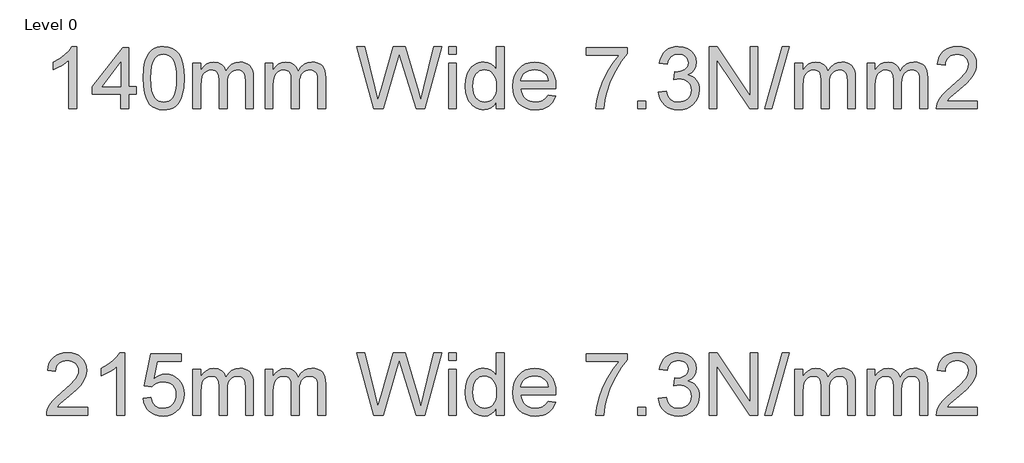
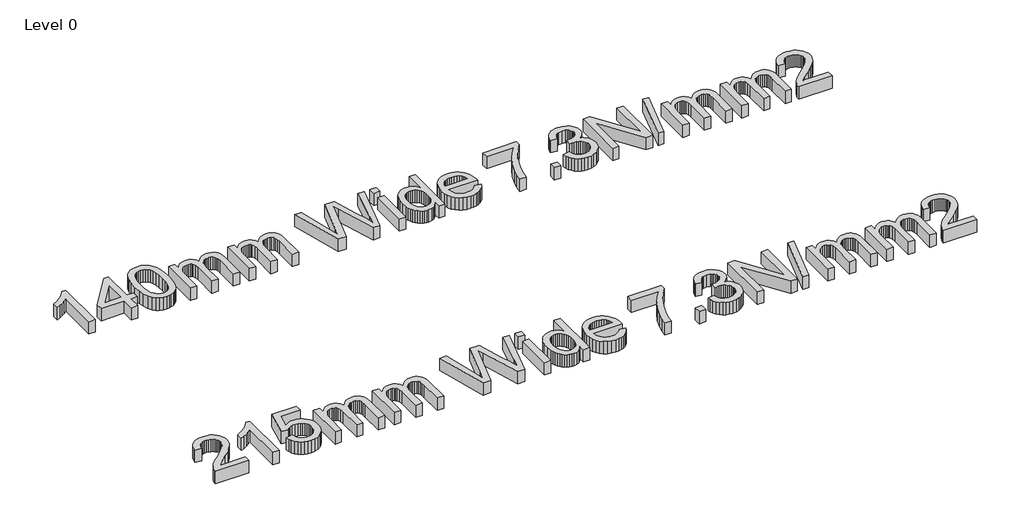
# One storey, part 13 of 14: 2 proxies.
"""IFC4 building model written with IfcOpenShell, lengths in millimetres."""

from ifc_helpers import new_model, si_unit, origin, origin_with_axes, place, context, project, spatial, polyline, outline, extrude, element, save

model = new_model("IFC4")

# Units and contexts
model_context = context("Model", 3, world=origin())
ifc_project = project(units=[si_unit("LENGTHUNIT", "METRE", prefix="MILLI")], contexts=[model_context])

# Site, building, storey
site = spatial("IfcSite", under=ifc_project)
building = spatial("IfcBuilding", under=site)
storey = spatial("IfcBuildingStorey", under=building, Name="Level 0", Elevation=0.0)

# Proxies
placement = place(None, origin())
element("IfcBuildingElementProxy", 1, Name="600mm Arial", ObjectType="600mm Arial", at=placement, inside=storey, context=model_context, shape_type="SweptSolid", body=[
    extrude(outline(polyline([(12948.7162837, 8059.7514844), (12874.8701298, 8059.7514844), (12874.8701298, 8520.1360998), (12844.0408029, 8495.2022056), (12804.9182067, 8470.304369), (12763.8484952, 8448.5435517), (12727.1778221, 8433.0207152), (12727.1778221, 8502.8284075), (12785.1766202, 8534.3788883), (12835.4230144, 8571.914946), (12875.0323894, 8611.8308113), (12901.1201298, 8650.5207152), (12948.7162837, 8650.5207152), (12948.7162837, 8059.7514844)])), origin_with_axes(), (0.0, 0.0, 1.0), 150.0),
    extrude(outline(polyline([(13364.1008991, 8059.7514844), (13364.1008991, 8198.2130229), (13096.4085914, 8198.2130229), (13096.4085914, 8272.0591767), (13382.5624375, 8641.289946), (13437.9470529, 8641.289946), (13437.9470529, 8272.0591767), (13511.7932067, 8272.0591767), (13511.7932067, 8198.2130229), (13437.9470529, 8198.2130229), (13437.9470529, 8059.7514844), (13364.1008991, 8059.7514844)]), holes=[polyline([(13364.1008991, 8272.0591767), (13364.1008991, 8500.2322537), (13187.273976, 8272.0591767), (13364.1008991, 8272.0591767)])]), origin_with_axes(), (0.0, 0.0, 1.0), 150.0),
    extrude(outline(polyline([(13576.4085914, 8350.3764844), (13581.8352741, 8444.9377825), (13588.6186274, 8485.0384436), (13598.1153221, 8520.352446), (13610.2847933, 8551.1682513), (13625.086476, 8577.774321), (13642.5203702, 8600.1706551), (13662.586476, 8618.3572537), (13685.3524015, 8632.4287681), (13710.8857548, 8642.4798498), (13739.1865361, 8648.5104988), (13770.2547452, 8650.5207152), (13815.7595529, 8645.7610998), (13856.5047452, 8631.4822537), (13890.5792644, 8608.243071), (13916.0720529, 8576.602446), (13935.3268606, 8536.8308113), (13950.6874375, 8489.1985998), (13960.7475337, 8428.711821), (13964.1008991, 8350.3764844), (13958.7283029, 8256.3560517), (13952.0125577, 8216.390607), (13942.6105144, 8181.1216767), (13930.5356947, 8150.2923498), (13915.8016202, 8123.6457152), (13898.4082909, 8101.1817729), (13878.3557067, 8082.9005229), (13855.562738, 8068.734357), (13829.9482548, 8058.6156671), (13801.5122572, 8052.5444532), (13770.2547452, 8050.5207152), (13729.5816683, 8054.0363402), (13693.523976, 8064.5832152), (13662.0816683, 8082.1613402), (13635.2547452, 8106.7707152), (13609.5095529, 8151.2568931), (13591.1201298, 8206.6865806), (13580.086476, 8273.0597777), (13576.4085914, 8350.3764844)]), holes=[polyline([(13650.2547452, 8350.5207152), (13652.4182067, 8286.3245013), (13658.9085914, 8234.3608594), (13669.7258991, 8194.6297897), (13684.8701298, 8167.1312921), (13703.1874375, 8148.421857), (13723.523976, 8135.0579748), (13745.8797452, 8127.0396455), (13770.2547452, 8124.366869), (13794.6297452, 8127.0486599), (13816.9855144, 8135.0940325), (13837.3220529, 8148.5029868), (13855.6393606, 8167.2755229), (13870.7835914, 8194.8190926), (13881.6008991, 8234.5411479), (13888.0912837, 8286.4416888), (13890.2547452, 8350.5207152), (13888.1633991, 8413.0177104), (13881.8893606, 8464.0663883), (13871.4326298, 8503.6667488), (13856.7932067, 8531.8187921), (13838.7823894, 8551.4431912), (13818.211476, 8565.460619), (13795.0804664, 8573.8710758), (13769.3893606, 8576.6745613), (13745.1405625, 8574.2046094), (13723.1633991, 8566.7947537), (13703.4578702, 8554.444994), (13686.023976, 8537.1553306), (13670.3749375, 8506.5062921), (13659.1970529, 8465.1841767), (13652.4903221, 8413.1889844), (13650.2547452, 8350.5207152)])]), origin_with_axes(), (0.0, 0.0, 1.0), 150.0),
    extrude(outline(polyline([(14047.1778221, 8059.7514844), (14047.1778221, 8493.5976383), (14121.023976, 8493.5976383), (14121.023976, 8422.2034075), (14143.2355144, 8454.9978787), (14171.7932067, 8480.6889844), (14205.7234952, 8497.2935517), (14244.0528221, 8502.8284075), (14285.1225337, 8497.1853787), (14302.6015, 8490.1315926), (14318.0432067, 8480.2562921), (14342.6345529, 8453.1589363), (14358.7162837, 8417.0110998), (14385.633351, 8454.5561719), (14416.336476, 8481.3740806), (14450.8256587, 8497.4648258), (14489.1008991, 8502.8284075), (14518.6636995, 8500.5973378), (14544.6117164, 8493.9041287), (14566.9449495, 8482.7487801), (14585.6633991, 8467.1312921), (14600.4605745, 8446.8713763), (14611.0299856, 8421.788744), (14617.3716322, 8391.8833955), (14619.4855144, 8357.1553306), (14619.4855144, 8059.7514844), (14545.6393606, 8059.7514844), (14545.6393606, 8325.4245613), (14543.9266202, 8362.257494), (14538.7883991, 8387.0832152), (14529.1609952, 8404.0844171), (14513.9807067, 8417.4437921), (14494.4554664, 8426.0976383), (14471.7932067, 8428.9822537), (14450.8662236, 8427.1342969), (14431.7871971, 8421.5904267), (14414.5561274, 8412.3506431), (14399.1730144, 8399.414946), (14386.5212716, 8382.4047296), (14377.4843125, 8360.9413883), (14372.062137, 8335.0249219), (14370.2547452, 8304.6553306), (14370.2547452, 8059.7514844), (14296.4085914, 8059.7514844), (14296.4085914, 8333.6457152), (14292.1357548, 8375.4005229), (14279.3172452, 8405.1841767), (14269.405887, 8415.5958354), (14256.7631587, 8423.0327344), (14241.3890601, 8427.4948738), (14223.2835914, 8428.9822537), (14194.8340721, 8425.0159075), (14168.6201298, 8413.116869), (14146.9855144, 8393.5735998), (14132.273976, 8366.6745613), (14123.836476, 8329.3548498), (14121.023976, 8278.5495613), (14121.023976, 8059.7514844), (14047.1778221, 8059.7514844)])), origin_with_axes(), (0.0, 0.0, 1.0), 150.0),
    extrude(outline(polyline([(14730.2547452, 8059.7514844), (14730.2547452, 8493.5976383), (14804.1008991, 8493.5976383), (14804.1008991, 8422.2034075), (14826.3124375, 8454.9978787), (14854.8701298, 8480.6889844), (14888.8004183, 8497.2935517), (14927.1297452, 8502.8284075), (14968.1994567, 8497.1853787), (14985.6784231, 8490.1315926), (15001.1201298, 8480.2562921), (15025.711476, 8453.1589363), (15041.7932067, 8417.0110998), (15068.7102741, 8454.5561719), (15099.4133991, 8481.3740806), (15133.9025817, 8497.4648258), (15172.1778221, 8502.8284075), (15201.7406226, 8500.5973378), (15227.6886394, 8493.9041287), (15250.0218726, 8482.7487801), (15268.7403221, 8467.1312921), (15283.5374976, 8446.8713763), (15294.1069087, 8421.788744), (15300.4485553, 8391.8833955), (15302.5624375, 8357.1553306), (15302.5624375, 8059.7514844), (15228.7162837, 8059.7514844), (15228.7162837, 8325.4245613), (15227.0035433, 8362.257494), (15221.8653221, 8387.0832152), (15212.2379183, 8404.0844171), (15197.0576298, 8417.4437921), (15177.5323894, 8426.0976383), (15154.8701298, 8428.9822537), (15133.9431466, 8427.1342969), (15114.8641202, 8421.5904267), (15097.6330505, 8412.3506431), (15082.2499375, 8399.414946), (15069.5981947, 8382.4047296), (15060.5612356, 8360.9413883), (15055.1390601, 8335.0249219), (15053.3316683, 8304.6553306), (15053.3316683, 8059.7514844), (14979.4855144, 8059.7514844), (14979.4855144, 8333.6457152), (14975.2126779, 8375.4005229), (14962.3941683, 8405.1841767), (14952.4828101, 8415.5958354), (14939.8400817, 8423.0327344), (14924.4659832, 8427.4948738), (14906.3605144, 8428.9822537), (14877.9109952, 8425.0159075), (14851.6970529, 8413.116869), (14830.0624375, 8393.5735998), (14815.3508991, 8366.6745613), (14806.9133991, 8329.3548498), (14804.1008991, 8278.5495613), (14804.1008991, 8059.7514844), (14730.2547452, 8059.7514844)])), origin_with_axes(), (0.0, 0.0, 1.0), 150.0),
    extrude(outline(polyline([(15759.0528221, 8059.7514844), (15597.9470529, 8650.5207152), (15674.1008991, 8650.5207152), (15767.5624375, 8262.2514844), (15796.4085914, 8142.3957152), (15827.273976, 8248.4053306), (15944.3893606, 8650.5207152), (16054.148976, 8650.5207152), (16139.2451298, 8359.0303306), (16175.6994567, 8250.8572537), (16202.5624375, 8142.3957152), (16230.5432067, 8258.789946), (16324.8701298, 8650.5207152), (16401.023976, 8650.5207152), (16239.773976, 8059.7514844), (16160.8797452, 8059.7514844), (16019.2451298, 8515.5207152), (15999.4855144, 8579.1264844), (15977.273976, 8502.539946), (15848.1874375, 8059.7514844), (15759.0528221, 8059.7514844)])), origin_with_axes(), (0.0, 0.0, 1.0), 150.0),
    extrude(outline(polyline([(16465.6393606, 8059.7514844), (16465.6393606, 8493.5976383), (16539.4855144, 8493.5976383), (16539.4855144, 8059.7514844), (16465.6393606, 8059.7514844)])), origin_with_axes(), (0.0, 0.0, 1.0), 150.0),
    extrude(outline(polyline([(16465.6393606, 8576.6745613), (16465.6393606, 8650.5207152), (16539.4855144, 8650.5207152), (16539.4855144, 8576.6745613), (16465.6393606, 8576.6745613)])), origin_with_axes(), (0.0, 0.0, 1.0), 150.0),
    extrude(outline(polyline([(16917.9470529, 8059.7514844), (16917.9470529, 8129.414946), (16895.8527019, 8094.89872), (16869.0888798, 8070.2442729), (16837.6555866, 8055.4516046), (16801.5528221, 8050.5207152), (16777.1778221, 8052.305571), (16753.8124375, 8057.6601383), (16731.4566683, 8066.5844171), (16710.1105144, 8079.0784075), (16690.4410433, 8094.7680109), (16673.1153221, 8113.2791287), (16658.133351, 8134.6117609), (16645.4951298, 8158.7659075), (16635.4620769, 8185.281833), (16628.2956106, 8213.6998017), (16622.5624375, 8276.241869), (16627.8448894, 8338.008696), (16643.6922452, 8393.789946), (16655.5732548, 8418.6427104), (16670.086476, 8440.4125421), (16687.2319087, 8459.0994412), (16707.0095529, 8474.7034075), (16728.7207909, 8487.008095), (16751.6670048, 8495.7971575), (16775.8481947, 8501.070595), (16801.2643606, 8502.8284075), (16837.3941683, 8497.7983594), (16869.3412837, 8482.7082152), (16896.4206106, 8459.5772056), (16917.9470529, 8430.4245613), (16917.9470529, 8650.5207152), (16991.7932067, 8650.5207152), (16991.7932067, 8059.7514844), (16917.9470529, 8059.7514844)]), holes=[polyline([(16696.4085914, 8276.5303306), (16698.4909231, 8240.7205349), (16704.7379183, 8209.7334556), (16715.1495769, 8183.5690926), (16729.7258991, 8162.227446), (16747.13275, 8145.6634436), (16766.0359952, 8133.8320133), (16786.4356346, 8126.7331551), (16808.3316683, 8124.366869), (16830.3313678, 8126.624982), (16850.6093125, 8133.399321), (16869.1655024, 8144.6898859), (16885.9999375, 8160.4966767), (16899.9768005, 8180.9458955), (16909.9602741, 8206.163744), (16915.9503582, 8236.1502224), (16917.9470529, 8270.9053306), (16915.9143005, 8309.0092969), (16909.8160433, 8341.6865806), (16899.6522813, 8368.9371815), (16885.4230144, 8390.7610998), (16868.218988, 8407.4828546), (16849.1309471, 8419.4269652), (16828.1588918, 8426.5934315), (16805.3028221, 8428.9822537), (16782.9740962, 8426.688083), (16762.5744567, 8419.805571), (16744.1039039, 8408.3347176), (16727.5624375, 8392.2755229), (16713.9326298, 8371.2764243), (16704.1970529, 8344.9858594), (16698.3557067, 8313.4038282), (16696.4085914, 8276.5303306)])]), origin_with_axes(), (0.0, 0.0, 1.0), 150.0),
    extrude(outline(polyline([(17406.3124375, 8188.9822537), (17478.7162837, 8179.7514844), (17467.6150216, 8150.7520854), (17452.6285433, 8125.196196), (17433.7568486, 8103.0838162), (17410.9999375, 8084.414946), (17384.5921851, 8069.58622), (17354.7679664, 8058.9942729), (17321.5272813, 8052.6391046), (17284.8701298, 8050.5207152), (17239.0498173, 8054.1760638), (17198.2234952, 8065.1421094), (17162.3911635, 8083.4188522), (17131.5528221, 8109.0062921), (17106.7541442, 8141.1922897), (17089.0408029, 8179.2647056), (17078.4127981, 8223.2235397), (17074.8701298, 8273.0687921), (17078.4488558, 8324.6042488), (17089.1850337, 8370.0279267), (17107.0786635, 8409.3398258), (17132.1297452, 8442.539946), (17162.8869567, 8468.9161479), (17197.898976, 8487.7562921), (17237.1658029, 8499.0603787), (17280.6874375, 8502.8284075), (17322.8073293, 8499.0693931), (17360.8977741, 8487.7923498), (17394.9587716, 8468.9972777), (17424.9903221, 8442.6841767), (17449.5050457, 8409.5561719), (17467.0155625, 8370.3163883), (17477.5218726, 8324.9648258), (17481.023976, 8273.5014844), (17480.5912837, 8253.5976383), (17148.7162837, 8253.5976383), (17152.9936274, 8224.1294892), (17161.4987356, 8198.321196), (17174.2316082, 8176.1727585), (17191.1922452, 8157.6841767), (17211.4431466, 8143.1078546), (17234.0468125, 8132.696196), (17259.0032428, 8126.4492008), (17286.3124375, 8124.366869), (17325.6153221, 8128.2250421), (17358.7162837, 8139.7995613), (17385.6153221, 8159.8115806), (17406.3124375, 8188.9822537)]), holes=[polyline([(17148.7162837, 8327.4437921), (17407.1778221, 8327.4437921), (17397.1898414, 8366.4582152), (17388.5990962, 8381.8007633), (17377.6105144, 8394.366869), (17357.4722933, 8409.5110998), (17334.5576298, 8420.3284075), (17308.8665241, 8426.8187921), (17280.398976, 8428.9822537), (17254.4329303, 8427.2559916), (17230.6213317, 8422.0772056), (17208.9641803, 8413.4458955), (17189.461476, 8401.3620613), (17173.0957909, 8386.3845974), (17160.8496971, 8369.0723979), (17152.7231947, 8349.4254628), (17148.7162837, 8327.4437921)])]), origin_with_axes(), (0.0, 0.0, 1.0), 150.0),
    extrude(outline(polyline([(17767.1778221, 8567.4437921), (17767.1778221, 8641.289946), (18154.8701298, 8641.289946), (18154.8701298, 8581.5784075), (18099.6117164, 8511.6445133), (18044.8941683, 8422.7082152), (17996.6309471, 8322.882494), (17960.7355144, 8220.2803306), (17943.1393606, 8143.5135037), (17933.3316683, 8059.7514844), (17859.4855144, 8059.7514844), (17867.4722933, 8135.8692729), (17888.836476, 8226.3380229), (17923.0011394, 8322.2334556), (17969.3893606, 8414.6312921), (18023.5480144, 8498.1589363), (18081.023976, 8567.4437921), (17767.1778221, 8567.4437921)])), origin_with_axes(), (0.0, 0.0, 1.0), 150.0),
    extrude(outline(polyline([(18256.4085914, 8059.7514844), (18256.4085914, 8133.5976383), (18330.2547452, 8133.5976383), (18330.2547452, 8059.7514844), (18256.4085914, 8059.7514844)])), origin_with_axes(), (0.0, 0.0, 1.0), 150.0),
    extrude(outline(polyline([(18450.2547452, 8216.6745613), (18524.1008991, 8225.9053306), (18540.633351, 8179.4990806), (18551.7796851, 8161.9479988), (18564.8460914, 8148.164946), (18580.1300457, 8137.7532873), (18597.9290241, 8130.3163883), (18618.2430265, 8125.8542488), (18641.0720529, 8124.366869), (18667.8268606, 8126.4131431), (18691.6970529, 8132.5519652), (18712.6826298, 8142.7833354), (18730.7835914, 8157.1072537), (18745.3599135, 8174.4510037), (18755.7715721, 8193.741869), (18762.0185673, 8214.9798498), (18764.1008991, 8238.164946), (18762.0365962, 8260.2457753), (18755.8436875, 8280.3344171), (18745.5221731, 8298.4308714), (18731.0720529, 8314.5351383), (18713.4398414, 8327.7547897), (18693.5720529, 8337.1973979), (18671.4686875, 8342.8629628), (18647.1297452, 8344.7514844), (18623.8004183, 8342.7322537), (18595.3508991, 8336.6745613), (18603.5720529, 8410.5207152), (18615.398976, 8409.6553306), (18659.6417644, 8414.9558113), (18699.1970529, 8430.8572537), (18715.477101, 8442.882494), (18727.1057067, 8457.7562921), (18734.0828702, 8475.4786479), (18736.4085914, 8496.0495613), (18734.7228942, 8512.7487801), (18729.6658029, 8527.9425902), (18721.2373173, 8541.6309916), (18709.4374375, 8553.8139844), (18694.9783029, 8563.8154868), (18678.5720529, 8570.9594171), (18639.9182067, 8576.6745613), (18601.1922452, 8570.9053306), (18584.4795048, 8563.6937921), (18569.5335914, 8553.5976383), (18556.7240962, 8540.616869), (18546.4206106, 8524.7514844), (18538.6231346, 8506.0014844), (18533.3316683, 8484.366869), (18459.4855144, 8493.5976383), (18468.2385192, 8528.8530469), (18481.2283029, 8559.9077344), (18498.4548654, 8586.7617008), (18519.9182067, 8609.414946), (18544.9422452, 8627.39872), (18572.8508991, 8640.2442729), (18603.6441683, 8647.9516046), (18637.3220529, 8650.5207152), (18683.7463317, 8645.4546094), (18726.3845529, 8630.2562921), (18762.3340721, 8606.2779267), (18788.6922452, 8574.8716767), (18804.8641202, 8538.6877825), (18810.2547452, 8500.3764844), (18805.1345529, 8464.679369), (18789.773976, 8432.2995613), (18764.3893606, 8404.7154267), (18729.1970529, 8383.4053306), (18753.8064279, 8375.7070133), (18775.4230144, 8364.727446), (18794.0468125, 8350.4666287), (18809.6778221, 8332.9245613), (18822.0456106, 8312.5339363), (18830.8797452, 8289.727446), (18836.180226, 8264.5050902), (18837.9470529, 8236.866869), (18834.4133991, 8199.4029267), (18823.8124375, 8164.8957152), (18806.1441683, 8133.3452344), (18781.4085914, 8104.7514844), (18751.273375, 8081.0255229), (18717.4061875, 8064.0784075), (18679.8070289, 8053.9101383), (18638.4758991, 8050.5207152), (18601.1201298, 8053.414345), (18567.0816683, 8062.0952344), (18536.3605144, 8076.5633835), (18508.9566683, 8096.8187921), (18485.9789039, 8121.6715565), (18468.5359952, 8149.9317729), (18456.6279423, 8181.5994412), (18450.2547452, 8216.6745613)])), origin_with_axes(), (0.0, 0.0, 1.0), 150.0),
    extrude(outline(polyline([(18930.2547452, 8059.7514844), (18930.2547452, 8650.5207152), (19009.2932067, 8650.5207152), (19317.9470529, 8182.491869), (19317.9470529, 8650.5207152), (19391.7932067, 8650.5207152), (19391.7932067, 8059.7514844), (19312.7547452, 8059.7514844), (19004.1008991, 8527.9245613), (19004.1008991, 8059.7514844), (18930.2547452, 8059.7514844)])), origin_with_axes(), (0.0, 0.0, 1.0), 150.0),
    extrude(outline(polyline([(19456.4085914, 8059.7514844), (19622.5624375, 8650.5207152), (19689.1970529, 8650.5207152), (19523.0432067, 8059.7514844), (19456.4085914, 8059.7514844)])), origin_with_axes(), (0.0, 0.0, 1.0), 150.0),
    extrude(outline(polyline([(19742.5624375, 8059.7514844), (19742.5624375, 8493.5976383), (19816.4085914, 8493.5976383), (19816.4085914, 8422.2034075), (19838.6201298, 8454.9978787), (19867.1778221, 8480.6889844), (19901.1081106, 8497.2935517), (19939.4374375, 8502.8284075), (19980.5071491, 8497.1853787), (19997.9861154, 8490.1315926), (20013.4278221, 8480.2562921), (20038.0191683, 8453.1589363), (20054.1008991, 8417.0110998), (20081.0179664, 8454.5561719), (20111.7210914, 8481.3740806), (20146.2102741, 8497.4648258), (20184.4855144, 8502.8284075), (20214.0483149, 8500.5973378), (20239.9963317, 8493.9041287), (20262.3295649, 8482.7487801), (20281.0480144, 8467.1312921), (20295.8451899, 8446.8713763), (20306.414601, 8421.788744), (20312.7562476, 8391.8833955), (20314.8701298, 8357.1553306), (20314.8701298, 8059.7514844), (20241.023976, 8059.7514844), (20241.023976, 8325.4245613), (20239.3112356, 8362.257494), (20234.1730144, 8387.0832152), (20224.5456106, 8404.0844171), (20209.3653221, 8417.4437921), (20189.8400817, 8426.0976383), (20167.1778221, 8428.9822537), (20146.250839, 8427.1342969), (20127.1718125, 8421.5904267), (20109.9407428, 8412.3506431), (20094.5576298, 8399.414946), (20081.905887, 8382.4047296), (20072.8689279, 8360.9413883), (20067.4467524, 8335.0249219), (20065.6393606, 8304.6553306), (20065.6393606, 8059.7514844), (19991.7932067, 8059.7514844), (19991.7932067, 8333.6457152), (19987.5203702, 8375.4005229), (19974.7018606, 8405.1841767), (19964.7905024, 8415.5958354), (19952.1477741, 8423.0327344), (19936.7736755, 8427.4948738), (19918.6682067, 8428.9822537), (19890.2186875, 8425.0159075), (19864.0047452, 8413.116869), (19842.3701298, 8393.5735998), (19827.6585914, 8366.6745613), (19819.2210914, 8329.3548498), (19816.4085914, 8278.5495613), (19816.4085914, 8059.7514844), (19742.5624375, 8059.7514844)])), origin_with_axes(), (0.0, 0.0, 1.0), 150.0),
    extrude(outline(polyline([(20425.6393606, 8059.7514844), (20425.6393606, 8493.5976383), (20499.4855144, 8493.5976383), (20499.4855144, 8422.2034075), (20521.6970529, 8454.9978787), (20550.2547452, 8480.6889844), (20584.1850337, 8497.2935517), (20622.5143606, 8502.8284075), (20663.5840721, 8497.1853787), (20681.0630385, 8490.1315926), (20696.5047452, 8480.2562921), (20721.0960914, 8453.1589363), (20737.1778221, 8417.0110998), (20764.0948894, 8454.5561719), (20794.7980144, 8481.3740806), (20829.2871971, 8497.4648258), (20867.5624375, 8502.8284075), (20897.125238, 8500.5973378), (20923.0732548, 8493.9041287), (20945.406488, 8482.7487801), (20964.1249375, 8467.1312921), (20978.922113, 8446.8713763), (20989.4915241, 8421.788744), (20995.8331707, 8391.8833955), (20997.9470529, 8357.1553306), (20997.9470529, 8059.7514844), (20924.1008991, 8059.7514844), (20924.1008991, 8325.4245613), (20922.3881587, 8362.257494), (20917.2499375, 8387.0832152), (20907.6225337, 8404.0844171), (20892.4422452, 8417.4437921), (20872.9170048, 8426.0976383), (20850.2547452, 8428.9822537), (20829.327762, 8427.1342969), (20810.2487356, 8421.5904267), (20793.0176659, 8412.3506431), (20777.6345529, 8399.414946), (20764.9828101, 8382.4047296), (20755.945851, 8360.9413883), (20750.5236755, 8335.0249219), (20748.7162837, 8304.6553306), (20748.7162837, 8059.7514844), (20674.8701298, 8059.7514844), (20674.8701298, 8333.6457152), (20670.5972933, 8375.4005229), (20657.7787837, 8405.1841767), (20647.8674255, 8415.5958354), (20635.2246971, 8423.0327344), (20619.8505986, 8427.4948738), (20601.7451298, 8428.9822537), (20573.2956106, 8425.0159075), (20547.0816683, 8413.116869), (20525.4470529, 8393.5735998), (20510.7355144, 8366.6745613), (20502.2980144, 8329.3548498), (20499.4855144, 8278.5495613), (20499.4855144, 8059.7514844), (20425.6393606, 8059.7514844)])), origin_with_axes(), (0.0, 0.0, 1.0), 150.0),
    extrude(outline(polyline([(21468.7162837, 8133.5976383), (21468.7162837, 8059.7514844), (21081.023976, 8059.7514844), (21082.6465721, 8085.7490806), (21088.9566683, 8110.664946), (21107.1658029, 8150.4546094), (21133.8124375, 8189.054369), (21172.3581106, 8229.4570133), (21226.2643606, 8274.6553306), (21305.9518606, 8345.4365806), (21353.7643606, 8397.6841767), (21367.7096731, 8419.0303306), (21377.6706106, 8440.0880229), (21383.6471731, 8460.8572537), (21385.6393606, 8481.3380229), (21383.7598534, 8500.6063522), (21378.1213317, 8518.3151863), (21368.7237957, 8534.4645253), (21355.5672452, 8549.054369), (21339.3818486, 8561.1382032), (21320.8977741, 8569.7695133), (21300.1150216, 8574.9482993), (21277.0335914, 8576.6745613), (21252.7171851, 8574.9888642), (21230.9698894, 8569.9317729), (21211.7917043, 8561.5032873), (21195.1826298, 8549.7034075), (21181.7466322, 8534.9287681), (21172.0876779, 8517.5760037), (21166.2057668, 8497.6451142), (21164.1008991, 8475.1360998), (21090.2547452, 8484.366869), (21096.6054063, 8522.4888642), (21108.1573894, 8555.7971575), (21124.9106947, 8584.2917488), (21146.8653221, 8607.9726383), (21173.516464, 8626.5874219), (21204.3593125, 8639.883696), (21239.3938678, 8647.8614604), (21278.6201298, 8650.5207152), (21318.1979543, 8647.5639844), (21353.4218125, 8638.6937921), (21384.2917043, 8623.9101383), (21410.8076298, 8603.2130229), (21432.1042043, 8578.1348979), (21447.3160433, 8550.2082152), (21456.4431466, 8519.4329748), (21459.4855144, 8485.8091767), (21456.2042644, 8450.4906671), (21446.3605144, 8415.7851383), (21428.8905625, 8380.4846575), (21402.7307067, 8343.3812921), (21361.0299856, 8299.0844171), (21296.9374375, 8242.2034075), (21211.9855144, 8171.1697537), (21178.6682067, 8133.5976383), (21468.7162837, 8133.5976383)])), origin_with_axes(), (0.0, 0.0, 1.0), 150.0),
])
element("IfcBuildingElementProxy", 2, Name="600mm Arial", ObjectType="600mm Arial", at=placement, inside=storey, context=model_context, shape_type="SweptSolid", body=[
    extrude(outline(polyline([(13050.2547452, 5233.5976383), (13050.2547452, 5159.7514844), (12662.5624375, 5159.7514844), (12664.1850337, 5185.7490806), (12670.4951298, 5210.664946), (12688.7042644, 5250.4546094), (12715.3508991, 5289.054369), (12753.8965721, 5329.4570133), (12807.8028221, 5374.6553306), (12887.4903221, 5445.4365806), (12935.3028221, 5497.6841767), (12949.2481346, 5519.0303306), (12959.2090721, 5540.0880229), (12965.1856346, 5560.8572537), (12967.1778221, 5581.3380229), (12965.2983149, 5600.6063522), (12959.6597933, 5618.3151863), (12950.2622572, 5634.4645253), (12937.1057067, 5649.054369), (12920.9203101, 5661.1382032), (12902.4362356, 5669.7695133), (12881.6534832, 5674.9482993), (12858.5720529, 5676.6745613), (12834.2556466, 5674.9888642), (12812.508351, 5669.9317729), (12793.3301659, 5661.5032873), (12776.7210914, 5649.7034075), (12763.2850938, 5634.9287681), (12753.6261394, 5617.5760037), (12747.7442284, 5597.6451142), (12745.6393606, 5575.1360998), (12671.7932067, 5584.366869), (12678.1438678, 5622.4888642), (12689.695851, 5655.7971575), (12706.4491563, 5684.2917488), (12728.4037837, 5707.9726383), (12755.0549255, 5726.5874219), (12785.8977741, 5739.883696), (12820.9323293, 5747.8614604), (12860.1585914, 5750.5207152), (12899.7364159, 5747.5639844), (12934.9602741, 5738.6937921), (12965.8301659, 5723.9101383), (12992.3460914, 5703.2130229), (13013.6426659, 5678.1348979), (13028.8545048, 5650.2082152), (13037.9816082, 5619.4329748), (13041.023976, 5585.8091767), (13037.742726, 5550.4906671), (13027.898976, 5515.7851383), (13010.4290241, 5480.4846575), (12984.2691683, 5443.3812921), (12942.5684471, 5399.0844171), (12878.4758991, 5342.2034075), (12793.523976, 5271.1697537), (12760.2066683, 5233.5976383), (13050.2547452, 5233.5976383)])), origin_with_axes(), (0.0, 0.0, 1.0), 150.0),
    extrude(outline(polyline([(13401.023976, 5159.7514844), (13327.1778221, 5159.7514844), (13327.1778221, 5620.1360998), (13296.3484952, 5595.2022056), (13257.2258991, 5570.304369), (13216.1561875, 5548.5435517), (13179.4855144, 5533.0207152), (13179.4855144, 5602.8284075), (13237.4843125, 5634.3788883), (13287.7307067, 5671.914946), (13327.3400817, 5711.8308113), (13353.4278221, 5750.5207152), (13401.023976, 5750.5207152), (13401.023976, 5159.7514844)])), origin_with_axes(), (0.0, 0.0, 1.0), 150.0),
    extrude(outline(polyline([(13576.4085914, 5316.6745613), (13650.2547452, 5325.9053306), (13655.7715721, 5302.1658474), (13663.8124375, 5281.5723979), (13674.3773414, 5264.124982), (13687.4662837, 5249.8235998), (13703.0522212, 5238.6862801), (13721.1081106, 5230.7310517), (13741.6339519, 5225.9579147), (13764.6297452, 5224.366869), (13792.7547452, 5226.5799099), (13817.5624375, 5233.2190325), (13839.0528221, 5244.2842368), (13857.2258991, 5259.7755229), (13871.6760192, 5278.9266647), (13881.9975337, 5300.9714363), (13888.1904423, 5325.9098378), (13890.2547452, 5353.741869), (13888.3211515, 5380.0459556), (13882.5203702, 5403.429369), (13872.8524015, 5423.8921094), (13859.3172452, 5441.4341767), (13841.8698293, 5455.5056912), (13820.4650817, 5465.5567729), (13795.1030024, 5471.5874219), (13765.7835914, 5473.5976383), (13729.9602741, 5470.3885037), (13700.9518606, 5460.7610998), (13677.7847933, 5446.0135037), (13659.4855144, 5427.4437921), (13585.6393606, 5436.6745613), (13650.2547452, 5741.289946), (13936.4085914, 5741.289946), (13936.4085914, 5667.4437921), (13709.9662837, 5667.4437921), (13678.3797452, 5504.7514844), (13704.4404423, 5523.429369), (13731.1321491, 5536.7707152), (13758.4548654, 5544.7755229), (13786.4085914, 5547.4437921), (13822.3716322, 5544.1354988), (13855.4049856, 5534.210619), (13885.5086515, 5517.6691527), (13912.6826298, 5494.5110998), (13935.1781226, 5466.1517248), (13951.2463317, 5434.0062921), (13960.8872572, 5398.0748017), (13964.1008991, 5358.3572537), (13961.2072692, 5320.1000421), (13952.5263798, 5284.5110998), (13938.0582308, 5251.5904267), (13917.8028221, 5221.3380229), (13887.117726, 5190.3554508), (13851.3124375, 5168.2250421), (13810.3869567, 5154.9467969), (13764.3412837, 5150.5207152), (13726.2328101, 5153.3647657), (13691.8112356, 5161.8969171), (13661.0765601, 5176.1171695), (13634.0287837, 5196.0255229), (13611.5242765, 5220.6303907), (13594.4194087, 5248.9401863), (13582.7141803, 5280.9549099), (13576.4085914, 5316.6745613)])), origin_with_axes(), (0.0, 0.0, 1.0), 150.0),
    extrude(outline(polyline([(14047.1778221, 5159.7514844), (14047.1778221, 5593.5976383), (14121.023976, 5593.5976383), (14121.023976, 5522.2034075), (14143.2355144, 5554.9978787), (14171.7932067, 5580.6889844), (14205.7234952, 5597.2935517), (14244.0528221, 5602.8284075), (14285.1225337, 5597.1853787), (14302.6015, 5590.1315926), (14318.0432067, 5580.2562921), (14342.6345529, 5553.1589363), (14358.7162837, 5517.0110998), (14385.633351, 5554.5561719), (14416.336476, 5581.3740806), (14450.8256587, 5597.4648258), (14489.1008991, 5602.8284075), (14518.6636995, 5600.5973378), (14544.6117164, 5593.9041287), (14566.9449495, 5582.7487801), (14585.6633991, 5567.1312921), (14600.4605745, 5546.8713763), (14611.0299856, 5521.788744), (14617.3716322, 5491.8833955), (14619.4855144, 5457.1553306), (14619.4855144, 5159.7514844), (14545.6393606, 5159.7514844), (14545.6393606, 5425.4245613), (14543.9266202, 5462.257494), (14538.7883991, 5487.0832152), (14529.1609952, 5504.0844171), (14513.9807067, 5517.4437921), (14494.4554664, 5526.0976383), (14471.7932067, 5528.9822537), (14450.8662236, 5527.1342969), (14431.7871971, 5521.5904267), (14414.5561274, 5512.3506431), (14399.1730144, 5499.414946), (14386.5212716, 5482.4047296), (14377.4843125, 5460.9413883), (14372.062137, 5435.0249219), (14370.2547452, 5404.6553306), (14370.2547452, 5159.7514844), (14296.4085914, 5159.7514844), (14296.4085914, 5433.6457152), (14292.1357548, 5475.4005229), (14279.3172452, 5505.1841767), (14269.405887, 5515.5958354), (14256.7631587, 5523.0327344), (14241.3890601, 5527.4948738), (14223.2835914, 5528.9822537), (14194.8340721, 5525.0159075), (14168.6201298, 5513.116869), (14146.9855144, 5493.5735998), (14132.273976, 5466.6745613), (14123.836476, 5429.3548498), (14121.023976, 5378.5495613), (14121.023976, 5159.7514844), (14047.1778221, 5159.7514844)])), origin_with_axes(), (0.0, 0.0, 1.0), 150.0),
    extrude(outline(polyline([(14730.2547452, 5159.7514844), (14730.2547452, 5593.5976383), (14804.1008991, 5593.5976383), (14804.1008991, 5522.2034075), (14826.3124375, 5554.9978787), (14854.8701298, 5580.6889844), (14888.8004183, 5597.2935517), (14927.1297452, 5602.8284075), (14968.1994567, 5597.1853787), (14985.6784231, 5590.1315926), (15001.1201298, 5580.2562921), (15025.711476, 5553.1589363), (15041.7932067, 5517.0110998), (15068.7102741, 5554.5561719), (15099.4133991, 5581.3740806), (15133.9025817, 5597.4648258), (15172.1778221, 5602.8284075), (15201.7406226, 5600.5973378), (15227.6886394, 5593.9041287), (15250.0218726, 5582.7487801), (15268.7403221, 5567.1312921), (15283.5374976, 5546.8713763), (15294.1069087, 5521.788744), (15300.4485553, 5491.8833955), (15302.5624375, 5457.1553306), (15302.5624375, 5159.7514844), (15228.7162837, 5159.7514844), (15228.7162837, 5425.4245613), (15227.0035433, 5462.257494), (15221.8653221, 5487.0832152), (15212.2379183, 5504.0844171), (15197.0576298, 5517.4437921), (15177.5323894, 5526.0976383), (15154.8701298, 5528.9822537), (15133.9431466, 5527.1342969), (15114.8641202, 5521.5904267), (15097.6330505, 5512.3506431), (15082.2499375, 5499.414946), (15069.5981947, 5482.4047296), (15060.5612356, 5460.9413883), (15055.1390601, 5435.0249219), (15053.3316683, 5404.6553306), (15053.3316683, 5159.7514844), (14979.4855144, 5159.7514844), (14979.4855144, 5433.6457152), (14975.2126779, 5475.4005229), (14962.3941683, 5505.1841767), (14952.4828101, 5515.5958354), (14939.8400817, 5523.0327344), (14924.4659832, 5527.4948738), (14906.3605144, 5528.9822537), (14877.9109952, 5525.0159075), (14851.6970529, 5513.116869), (14830.0624375, 5493.5735998), (14815.3508991, 5466.6745613), (14806.9133991, 5429.3548498), (14804.1008991, 5378.5495613), (14804.1008991, 5159.7514844), (14730.2547452, 5159.7514844)])), origin_with_axes(), (0.0, 0.0, 1.0), 150.0),
    extrude(outline(polyline([(15759.0528221, 5159.7514844), (15597.9470529, 5750.5207152), (15674.1008991, 5750.5207152), (15767.5624375, 5362.2514844), (15796.4085914, 5242.3957152), (15827.273976, 5348.4053306), (15944.3893606, 5750.5207152), (16054.148976, 5750.5207152), (16139.2451298, 5459.0303306), (16175.6994567, 5350.8572537), (16202.5624375, 5242.3957152), (16230.5432067, 5358.789946), (16324.8701298, 5750.5207152), (16401.023976, 5750.5207152), (16239.773976, 5159.7514844), (16160.8797452, 5159.7514844), (16019.2451298, 5615.5207152), (15999.4855144, 5679.1264844), (15977.273976, 5602.539946), (15848.1874375, 5159.7514844), (15759.0528221, 5159.7514844)])), origin_with_axes(), (0.0, 0.0, 1.0), 150.0),
    extrude(outline(polyline([(16465.6393606, 5676.6745613), (16465.6393606, 5750.5207152), (16539.4855144, 5750.5207152), (16539.4855144, 5676.6745613), (16465.6393606, 5676.6745613)])), origin_with_axes(), (0.0, 0.0, 1.0), 150.0),
    extrude(outline(polyline([(16465.6393606, 5159.7514844), (16465.6393606, 5593.5976383), (16539.4855144, 5593.5976383), (16539.4855144, 5159.7514844), (16465.6393606, 5159.7514844)])), origin_with_axes(), (0.0, 0.0, 1.0), 150.0),
    extrude(outline(polyline([(16917.9470529, 5159.7514844), (16917.9470529, 5229.414946), (16895.8527019, 5194.89872), (16869.0888798, 5170.2442729), (16837.6555866, 5155.4516046), (16801.5528221, 5150.5207152), (16777.1778221, 5152.305571), (16753.8124375, 5157.6601383), (16731.4566683, 5166.5844171), (16710.1105144, 5179.0784075), (16690.4410433, 5194.7680109), (16673.1153221, 5213.2791287), (16658.133351, 5234.6117609), (16645.4951298, 5258.7659075), (16635.4620769, 5285.281833), (16628.2956106, 5313.6998017), (16622.5624375, 5376.241869), (16627.8448894, 5438.008696), (16643.6922452, 5493.789946), (16655.5732548, 5518.6427104), (16670.086476, 5540.4125421), (16687.2319087, 5559.0994412), (16707.0095529, 5574.7034075), (16728.7207909, 5587.008095), (16751.6670048, 5595.7971575), (16775.8481947, 5601.070595), (16801.2643606, 5602.8284075), (16837.3941683, 5597.7983594), (16869.3412837, 5582.7082152), (16896.4206106, 5559.5772056), (16917.9470529, 5530.4245613), (16917.9470529, 5750.5207152), (16991.7932067, 5750.5207152), (16991.7932067, 5159.7514844), (16917.9470529, 5159.7514844)]), holes=[polyline([(16696.4085914, 5376.5303306), (16698.4909231, 5340.7205349), (16704.7379183, 5309.7334556), (16715.1495769, 5283.5690926), (16729.7258991, 5262.227446), (16747.13275, 5245.6634436), (16766.0359952, 5233.8320133), (16786.4356346, 5226.7331551), (16808.3316683, 5224.366869), (16830.3313678, 5226.624982), (16850.6093125, 5233.399321), (16869.1655024, 5244.6898859), (16885.9999375, 5260.4966767), (16899.9768005, 5280.9458955), (16909.9602741, 5306.163744), (16915.9503582, 5336.1502224), (16917.9470529, 5370.9053306), (16915.9143005, 5409.0092969), (16909.8160433, 5441.6865806), (16899.6522813, 5468.9371815), (16885.4230144, 5490.7610998), (16868.218988, 5507.4828546), (16849.1309471, 5519.4269652), (16828.1588918, 5526.5934315), (16805.3028221, 5528.9822537), (16782.9740962, 5526.688083), (16762.5744567, 5519.805571), (16744.1039039, 5508.3347176), (16727.5624375, 5492.2755229), (16713.9326298, 5471.2764243), (16704.1970529, 5444.9858594), (16698.3557067, 5413.4038282), (16696.4085914, 5376.5303306)])]), origin_with_axes(), (0.0, 0.0, 1.0), 150.0),
    extrude(outline(polyline([(17406.3124375, 5288.9822537), (17478.7162837, 5279.7514844), (17467.6150216, 5250.7520854), (17452.6285433, 5225.196196), (17433.7568486, 5203.0838162), (17410.9999375, 5184.414946), (17384.5921851, 5169.58622), (17354.7679664, 5158.9942729), (17321.5272813, 5152.6391046), (17284.8701298, 5150.5207152), (17239.0498173, 5154.1760638), (17198.2234952, 5165.1421094), (17162.3911635, 5183.4188522), (17131.5528221, 5209.0062921), (17106.7541442, 5241.1922897), (17089.0408029, 5279.2647056), (17078.4127981, 5323.2235397), (17074.8701298, 5373.0687921), (17078.4488558, 5424.6042488), (17089.1850337, 5470.0279267), (17107.0786635, 5509.3398258), (17132.1297452, 5542.539946), (17162.8869567, 5568.9161479), (17197.898976, 5587.7562921), (17237.1658029, 5599.0603787), (17280.6874375, 5602.8284075), (17322.8073293, 5599.0693931), (17360.8977741, 5587.7923498), (17394.9587716, 5568.9972777), (17424.9903221, 5542.6841767), (17449.5050457, 5509.5561719), (17467.0155625, 5470.3163883), (17477.5218726, 5424.9648258), (17481.023976, 5373.5014844), (17480.5912837, 5353.5976383), (17148.7162837, 5353.5976383), (17152.9936274, 5324.1294892), (17161.4987356, 5298.321196), (17174.2316082, 5276.1727585), (17191.1922452, 5257.6841767), (17211.4431466, 5243.1078546), (17234.0468125, 5232.696196), (17259.0032428, 5226.4492008), (17286.3124375, 5224.366869), (17325.6153221, 5228.2250421), (17358.7162837, 5239.7995613), (17385.6153221, 5259.8115806), (17406.3124375, 5288.9822537)]), holes=[polyline([(17148.7162837, 5427.4437921), (17407.1778221, 5427.4437921), (17397.1898414, 5466.4582152), (17388.5990962, 5481.8007633), (17377.6105144, 5494.366869), (17357.4722933, 5509.5110998), (17334.5576298, 5520.3284075), (17308.8665241, 5526.8187921), (17280.398976, 5528.9822537), (17254.4329303, 5527.2559916), (17230.6213317, 5522.0772056), (17208.9641803, 5513.4458955), (17189.461476, 5501.3620613), (17173.0957909, 5486.3845974), (17160.8496971, 5469.0723979), (17152.7231947, 5449.4254628), (17148.7162837, 5427.4437921)])]), origin_with_axes(), (0.0, 0.0, 1.0), 150.0),
    extrude(outline(polyline([(17767.1778221, 5667.4437921), (17767.1778221, 5741.289946), (18154.8701298, 5741.289946), (18154.8701298, 5681.5784075), (18099.6117164, 5611.6445133), (18044.8941683, 5522.7082152), (17996.6309471, 5422.882494), (17960.7355144, 5320.2803306), (17943.1393606, 5243.5135037), (17933.3316683, 5159.7514844), (17859.4855144, 5159.7514844), (17867.4722933, 5235.8692729), (17888.836476, 5326.3380229), (17923.0011394, 5422.2334556), (17969.3893606, 5514.6312921), (18023.5480144, 5598.1589363), (18081.023976, 5667.4437921), (17767.1778221, 5667.4437921)])), origin_with_axes(), (0.0, 0.0, 1.0), 150.0),
    extrude(outline(polyline([(18256.4085914, 5159.7514844), (18256.4085914, 5233.5976383), (18330.2547452, 5233.5976383), (18330.2547452, 5159.7514844), (18256.4085914, 5159.7514844)])), origin_with_axes(), (0.0, 0.0, 1.0), 150.0),
    extrude(outline(polyline([(18450.2547452, 5316.6745613), (18524.1008991, 5325.9053306), (18540.633351, 5279.4990806), (18551.7796851, 5261.9479988), (18564.8460914, 5248.164946), (18580.1300457, 5237.7532873), (18597.9290241, 5230.3163883), (18618.2430265, 5225.8542488), (18641.0720529, 5224.366869), (18667.8268606, 5226.4131431), (18691.6970529, 5232.5519652), (18712.6826298, 5242.7833354), (18730.7835914, 5257.1072537), (18745.3599135, 5274.4510037), (18755.7715721, 5293.741869), (18762.0185673, 5314.9798498), (18764.1008991, 5338.164946), (18762.0365962, 5360.2457753), (18755.8436875, 5380.3344171), (18745.5221731, 5398.4308714), (18731.0720529, 5414.5351383), (18713.4398414, 5427.7547897), (18693.5720529, 5437.1973979), (18671.4686875, 5442.8629628), (18647.1297452, 5444.7514844), (18623.8004183, 5442.7322537), (18595.3508991, 5436.6745613), (18603.5720529, 5510.5207152), (18615.398976, 5509.6553306), (18659.6417644, 5514.9558113), (18699.1970529, 5530.8572537), (18715.477101, 5542.882494), (18727.1057067, 5557.7562921), (18734.0828702, 5575.4786479), (18736.4085914, 5596.0495613), (18734.7228942, 5612.7487801), (18729.6658029, 5627.9425902), (18721.2373173, 5641.6309916), (18709.4374375, 5653.8139844), (18694.9783029, 5663.8154868), (18678.5720529, 5670.9594171), (18639.9182067, 5676.6745613), (18601.1922452, 5670.9053306), (18584.4795048, 5663.6937921), (18569.5335914, 5653.5976383), (18556.7240962, 5640.616869), (18546.4206106, 5624.7514844), (18538.6231346, 5606.0014844), (18533.3316683, 5584.366869), (18459.4855144, 5593.5976383), (18468.2385192, 5628.8530469), (18481.2283029, 5659.9077344), (18498.4548654, 5686.7617008), (18519.9182067, 5709.414946), (18544.9422452, 5727.39872), (18572.8508991, 5740.2442729), (18603.6441683, 5747.9516046), (18637.3220529, 5750.5207152), (18683.7463317, 5745.4546094), (18726.3845529, 5730.2562921), (18762.3340721, 5706.2779267), (18788.6922452, 5674.8716767), (18804.8641202, 5638.6877825), (18810.2547452, 5600.3764844), (18805.1345529, 5564.679369), (18789.773976, 5532.2995613), (18764.3893606, 5504.7154267), (18729.1970529, 5483.4053306), (18753.8064279, 5475.7070133), (18775.4230144, 5464.727446), (18794.0468125, 5450.4666287), (18809.6778221, 5432.9245613), (18822.0456106, 5412.5339363), (18830.8797452, 5389.727446), (18836.180226, 5364.5050902), (18837.9470529, 5336.866869), (18834.4133991, 5299.4029267), (18823.8124375, 5264.8957152), (18806.1441683, 5233.3452344), (18781.4085914, 5204.7514844), (18751.273375, 5181.0255229), (18717.4061875, 5164.0784075), (18679.8070289, 5153.9101383), (18638.4758991, 5150.5207152), (18601.1201298, 5153.414345), (18567.0816683, 5162.0952344), (18536.3605144, 5176.5633835), (18508.9566683, 5196.8187921), (18485.9789039, 5221.6715565), (18468.5359952, 5249.9317729), (18456.6279423, 5281.5994412), (18450.2547452, 5316.6745613)])), origin_with_axes(), (0.0, 0.0, 1.0), 150.0),
    extrude(outline(polyline([(18930.2547452, 5159.7514844), (18930.2547452, 5750.5207152), (19009.2932067, 5750.5207152), (19317.9470529, 5282.491869), (19317.9470529, 5750.5207152), (19391.7932067, 5750.5207152), (19391.7932067, 5159.7514844), (19312.7547452, 5159.7514844), (19004.1008991, 5627.9245613), (19004.1008991, 5159.7514844), (18930.2547452, 5159.7514844)])), origin_with_axes(), (0.0, 0.0, 1.0), 150.0),
    extrude(outline(polyline([(19456.4085914, 5159.7514844), (19622.5624375, 5750.5207152), (19689.1970529, 5750.5207152), (19523.0432067, 5159.7514844), (19456.4085914, 5159.7514844)])), origin_with_axes(), (0.0, 0.0, 1.0), 150.0),
    extrude(outline(polyline([(19742.5624375, 5159.7514844), (19742.5624375, 5593.5976383), (19816.4085914, 5593.5976383), (19816.4085914, 5522.2034075), (19838.6201298, 5554.9978787), (19867.1778221, 5580.6889844), (19901.1081106, 5597.2935517), (19939.4374375, 5602.8284075), (19980.5071491, 5597.1853787), (19997.9861154, 5590.1315926), (20013.4278221, 5580.2562921), (20038.0191683, 5553.1589363), (20054.1008991, 5517.0110998), (20081.0179664, 5554.5561719), (20111.7210914, 5581.3740806), (20146.2102741, 5597.4648258), (20184.4855144, 5602.8284075), (20214.0483149, 5600.5973378), (20239.9963317, 5593.9041287), (20262.3295649, 5582.7487801), (20281.0480144, 5567.1312921), (20295.8451899, 5546.8713763), (20306.414601, 5521.788744), (20312.7562476, 5491.8833955), (20314.8701298, 5457.1553306), (20314.8701298, 5159.7514844), (20241.023976, 5159.7514844), (20241.023976, 5425.4245613), (20239.3112356, 5462.257494), (20234.1730144, 5487.0832152), (20224.5456106, 5504.0844171), (20209.3653221, 5517.4437921), (20189.8400817, 5526.0976383), (20167.1778221, 5528.9822537), (20146.250839, 5527.1342969), (20127.1718125, 5521.5904267), (20109.9407428, 5512.3506431), (20094.5576298, 5499.414946), (20081.905887, 5482.4047296), (20072.8689279, 5460.9413883), (20067.4467524, 5435.0249219), (20065.6393606, 5404.6553306), (20065.6393606, 5159.7514844), (19991.7932067, 5159.7514844), (19991.7932067, 5433.6457152), (19987.5203702, 5475.4005229), (19974.7018606, 5505.1841767), (19964.7905024, 5515.5958354), (19952.1477741, 5523.0327344), (19936.7736755, 5527.4948738), (19918.6682067, 5528.9822537), (19890.2186875, 5525.0159075), (19864.0047452, 5513.116869), (19842.3701298, 5493.5735998), (19827.6585914, 5466.6745613), (19819.2210914, 5429.3548498), (19816.4085914, 5378.5495613), (19816.4085914, 5159.7514844), (19742.5624375, 5159.7514844)])), origin_with_axes(), (0.0, 0.0, 1.0), 150.0),
    extrude(outline(polyline([(20425.6393606, 5159.7514844), (20425.6393606, 5593.5976383), (20499.4855144, 5593.5976383), (20499.4855144, 5522.2034075), (20521.6970529, 5554.9978787), (20550.2547452, 5580.6889844), (20584.1850337, 5597.2935517), (20622.5143606, 5602.8284075), (20663.5840721, 5597.1853787), (20681.0630385, 5590.1315926), (20696.5047452, 5580.2562921), (20721.0960914, 5553.1589363), (20737.1778221, 5517.0110998), (20764.0948894, 5554.5561719), (20794.7980144, 5581.3740806), (20829.2871971, 5597.4648258), (20867.5624375, 5602.8284075), (20897.125238, 5600.5973378), (20923.0732548, 5593.9041287), (20945.406488, 5582.7487801), (20964.1249375, 5567.1312921), (20978.922113, 5546.8713763), (20989.4915241, 5521.788744), (20995.8331707, 5491.8833955), (20997.9470529, 5457.1553306), (20997.9470529, 5159.7514844), (20924.1008991, 5159.7514844), (20924.1008991, 5425.4245613), (20922.3881587, 5462.257494), (20917.2499375, 5487.0832152), (20907.6225337, 5504.0844171), (20892.4422452, 5517.4437921), (20872.9170048, 5526.0976383), (20850.2547452, 5528.9822537), (20829.327762, 5527.1342969), (20810.2487356, 5521.5904267), (20793.0176659, 5512.3506431), (20777.6345529, 5499.414946), (20764.9828101, 5482.4047296), (20755.945851, 5460.9413883), (20750.5236755, 5435.0249219), (20748.7162837, 5404.6553306), (20748.7162837, 5159.7514844), (20674.8701298, 5159.7514844), (20674.8701298, 5433.6457152), (20670.5972933, 5475.4005229), (20657.7787837, 5505.1841767), (20647.8674255, 5515.5958354), (20635.2246971, 5523.0327344), (20619.8505986, 5527.4948738), (20601.7451298, 5528.9822537), (20573.2956106, 5525.0159075), (20547.0816683, 5513.116869), (20525.4470529, 5493.5735998), (20510.7355144, 5466.6745613), (20502.2980144, 5429.3548498), (20499.4855144, 5378.5495613), (20499.4855144, 5159.7514844), (20425.6393606, 5159.7514844)])), origin_with_axes(), (0.0, 0.0, 1.0), 150.0),
    extrude(outline(polyline([(21468.7162837, 5233.5976383), (21468.7162837, 5159.7514844), (21081.023976, 5159.7514844), (21082.6465721, 5185.7490806), (21088.9566683, 5210.664946), (21107.1658029, 5250.4546094), (21133.8124375, 5289.054369), (21172.3581106, 5329.4570133), (21226.2643606, 5374.6553306), (21305.9518606, 5445.4365806), (21353.7643606, 5497.6841767), (21367.7096731, 5519.0303306), (21377.6706106, 5540.0880229), (21383.6471731, 5560.8572537), (21385.6393606, 5581.3380229), (21383.7598534, 5600.6063522), (21378.1213317, 5618.3151863), (21368.7237957, 5634.4645253), (21355.5672452, 5649.054369), (21339.3818486, 5661.1382032), (21320.8977741, 5669.7695133), (21300.1150216, 5674.9482993), (21277.0335914, 5676.6745613), (21252.7171851, 5674.9888642), (21230.9698894, 5669.9317729), (21211.7917043, 5661.5032873), (21195.1826298, 5649.7034075), (21181.7466322, 5634.9287681), (21172.0876779, 5617.5760037), (21166.2057668, 5597.6451142), (21164.1008991, 5575.1360998), (21090.2547452, 5584.366869), (21096.6054063, 5622.4888642), (21108.1573894, 5655.7971575), (21124.9106947, 5684.2917488), (21146.8653221, 5707.9726383), (21173.516464, 5726.5874219), (21204.3593125, 5739.883696), (21239.3938678, 5747.8614604), (21278.6201298, 5750.5207152), (21318.1979543, 5747.5639844), (21353.4218125, 5738.6937921), (21384.2917043, 5723.9101383), (21410.8076298, 5703.2130229), (21432.1042043, 5678.1348979), (21447.3160433, 5650.2082152), (21456.4431466, 5619.4329748), (21459.4855144, 5585.8091767), (21456.2042644, 5550.4906671), (21446.3605144, 5515.7851383), (21428.8905625, 5480.4846575), (21402.7307067, 5443.3812921), (21361.0299856, 5399.0844171), (21296.9374375, 5342.2034075), (21211.9855144, 5271.1697537), (21178.6682067, 5233.5976383), (21468.7162837, 5233.5976383)])), origin_with_axes(), (0.0, 0.0, 1.0), 150.0),
])

save(model, "model.ifc")
